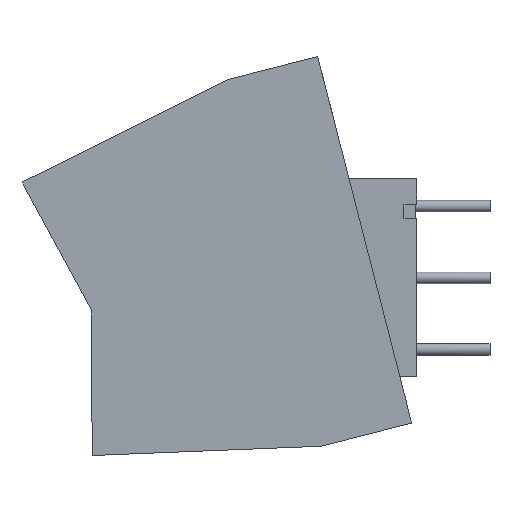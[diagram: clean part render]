
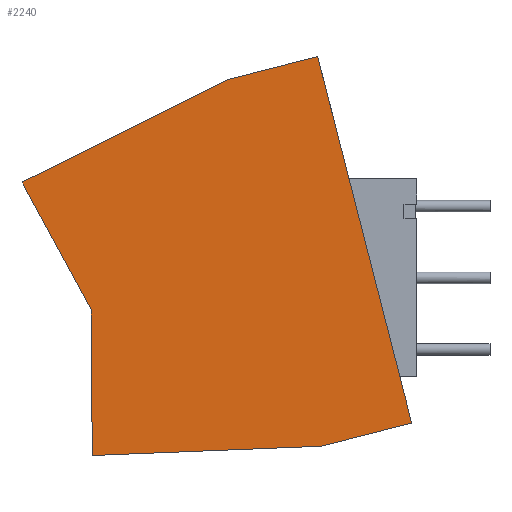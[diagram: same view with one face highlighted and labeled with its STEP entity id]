
A CAD part, left-side view. The second image highlights one B-rep face of the part: STEP entity #2240.
In plain terms, the highlighted planar face has unit normal (-1, 0, 0).
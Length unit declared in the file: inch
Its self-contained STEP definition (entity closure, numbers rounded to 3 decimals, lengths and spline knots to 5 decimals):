
#599=ORIENTED_EDGE('',*,*,#958,.F.);
#600=ORIENTED_EDGE('',*,*,#981,.F.);
#601=ORIENTED_EDGE('',*,*,#978,.F.);
#602=ORIENTED_EDGE('',*,*,#975,.F.);
#603=ORIENTED_EDGE('',*,*,#972,.F.);
#604=ORIENTED_EDGE('',*,*,#969,.F.);
#605=ORIENTED_EDGE('',*,*,#966,.F.);
#958=EDGE_CURVE('',#1193,#1194,#1434,.T.);
#966=EDGE_CURVE('',#1194,#1201,#1442,.T.);
#969=EDGE_CURVE('',#1201,#1203,#1445,.T.);
#972=EDGE_CURVE('',#1203,#1205,#1448,.T.);
#975=EDGE_CURVE('',#1205,#1207,#1451,.T.);
#978=EDGE_CURVE('',#1207,#1209,#1454,.T.);
#981=EDGE_CURVE('',#1209,#1193,#1457,.T.);
#1193=VERTEX_POINT('',#3594);
#1194=VERTEX_POINT('',#3595);
#1201=VERTEX_POINT('',#3611);
#1203=VERTEX_POINT('',#3617);
#1205=VERTEX_POINT('',#3623);
#1207=VERTEX_POINT('',#3629);
#1209=VERTEX_POINT('',#3635);
#1434=LINE('',#3593,#1691);
#1442=LINE('',#3610,#1699);
#1445=LINE('',#3616,#1702);
#1448=LINE('',#3622,#1705);
#1451=LINE('',#3628,#1708);
#1454=LINE('',#3634,#1711);
#1457=LINE('',#3640,#1714);
#1691=VECTOR('',#2918,39.37008);
#1699=VECTOR('',#2928,39.37008);
#1702=VECTOR('',#2933,39.37008);
#1705=VECTOR('',#2938,39.37008);
#1708=VECTOR('',#2943,39.37008);
#1711=VECTOR('',#2948,39.37008);
#1714=VECTOR('',#2953,39.37008);
#1864=EDGE_LOOP('',(#599,#600,#601,#602,#603,#604,#605));
#2002=FACE_BOUND('',#1864,.T.);
#2119=PLANE('',#2446);
#2240=ADVANCED_FACE('',(#2002),#2119,.F.);
#2446=AXIS2_PLACEMENT_3D('',#3643,#2957,#2958);
#2918=DIRECTION('',(0.,-0.969,0.249));
#2928=DIRECTION('',(0.,-0.249,-0.969));
#2933=DIRECTION('',(0.,0.969,-0.249));
#2938=DIRECTION('',(0.,0.999,-0.04));
#2943=DIRECTION('',(0.,0.007,1.));
#2948=DIRECTION('',(0.,0.476,0.88));
#2953=DIRECTION('',(0.,-0.895,0.446));
#2957=DIRECTION('',(1.,0.,0.));
#2958=DIRECTION('',(0.,0.,-1.));
#3593=CARTESIAN_POINT('',(-0.122,0.0515,0.26774));
#3594=CARTESIAN_POINT('',(-0.122,0.0515,0.26774));
#3595=CARTESIAN_POINT('',(-0.122,-0.07441,0.30007));
#3610=CARTESIAN_POINT('',(-0.122,-0.07441,0.30007));
#3611=CARTESIAN_POINT('',(-0.122,-0.20574,-0.21133));
#3616=CARTESIAN_POINT('',(-0.122,-0.20574,-0.21133));
#3617=CARTESIAN_POINT('',(-0.122,-0.07983,-0.24367));
#3622=CARTESIAN_POINT('',(-0.122,-0.07983,-0.24367));
#3623=CARTESIAN_POINT('',(-0.122,0.24,-0.25663));
#3628=CARTESIAN_POINT('',(-0.122,0.24,-0.25663));
#3629=CARTESIAN_POINT('',(-0.122,0.24143,-0.0536));
#3634=CARTESIAN_POINT('',(-0.122,0.24143,-0.0536));
#3635=CARTESIAN_POINT('',(-0.122,0.338,0.12499));
#3640=CARTESIAN_POINT('',(-0.122,0.338,0.12499));
#3643=CARTESIAN_POINT('',(-0.122,0.,0.));
